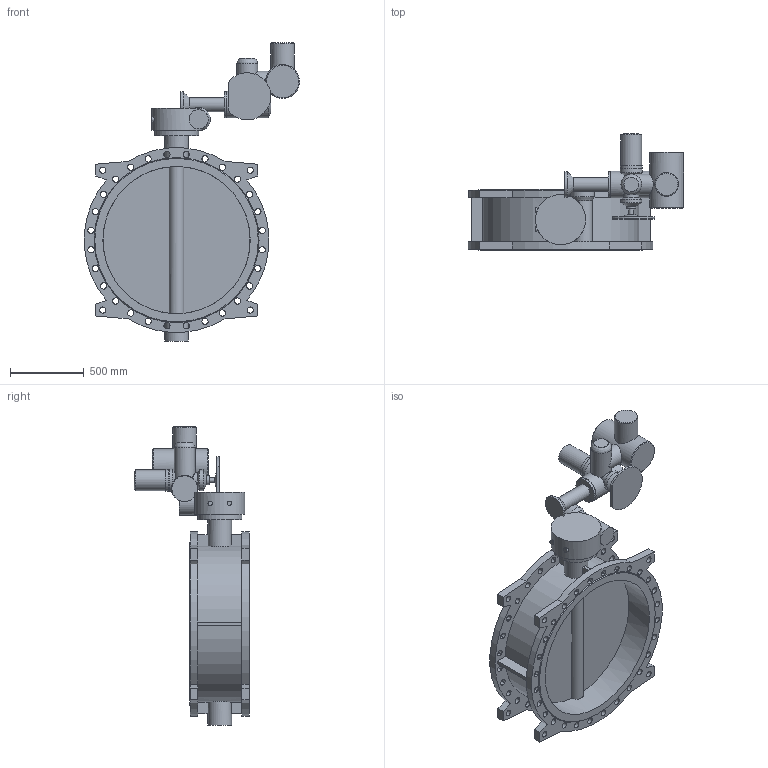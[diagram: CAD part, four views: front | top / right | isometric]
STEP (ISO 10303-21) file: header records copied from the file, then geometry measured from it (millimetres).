
FILE_DESCRIPTION(('STEP AP203'), '1');
FILE_NAME('Çàòâîð 021F.Y DN1000 +ðåäóêòîð+ÌÒ903.À30-34 ñ ÁÓ', '', ('UNSPECIFIED'), ('UNSPECIFIED'), 'ASCON STEP Converter 1.6', 'ASCON Math Kernel', '');
FILE_SCHEMA(('CONFIG_CONTROL_DESIGN'));
Length unit declared in the file: millimetre
Bounding box: 1460.56 x 787 x 2023 mm (x, y, z)
Volume: 168540964.2 mm3; surface area: 8386055 mm2
Topology: 1 solids, 1 shells, 414 faces, 1099 edges, 727 vertices
Faces by surface type: plane 211, cylinder 187, cone 15, torus 1
Full cylindrical faces by diameter (mm): 14 x12, 18 x12, 30 x2, 32 x1, 42 x8, 60 x1, 95 x1, 100 x1, 130 x1, 140 x4, 147 x1, 151 x1, 160 x4, 175 x1, 180 x1, 230 x1, 300 x1, 340 x1, 1000 x2
Entity records: 18604 total; most frequent: CARTESIAN_POINT 4674, DIRECTION 2204, ORIENTED_EDGE 2056, EDGE_CURVE 1028, AXIS2_PLACEMENT_3D 801, VERTEX_POINT 727, EDGE_LOOP 655, LINE 602
